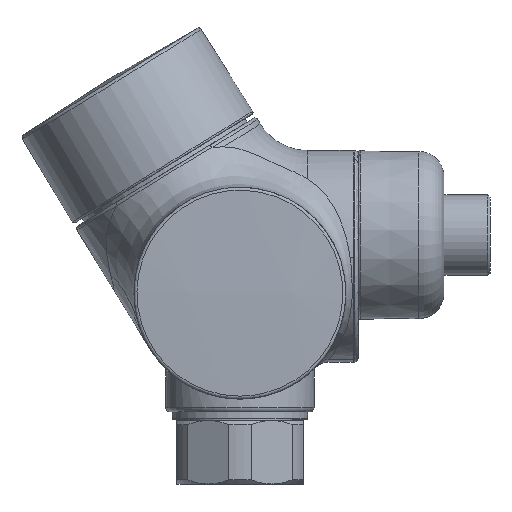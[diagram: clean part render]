
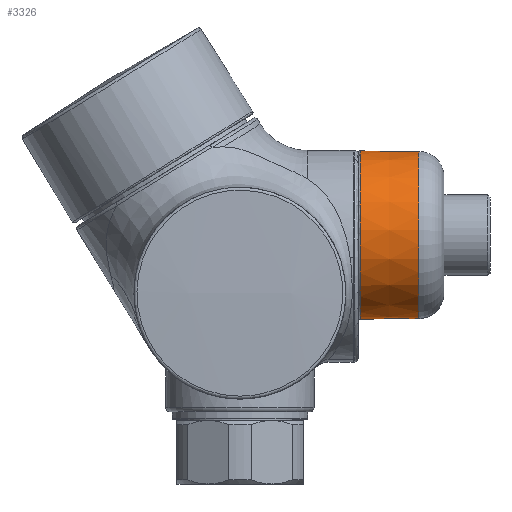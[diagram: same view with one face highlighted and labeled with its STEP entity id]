
A CAD part, left-side view. The second image highlights one B-rep face of the part: STEP entity #3326.
In plain terms, the highlighted conical face has half-angle 0.5 degrees and reference radius 19.909 mm.
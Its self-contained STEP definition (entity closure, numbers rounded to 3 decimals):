
#999 = CARTESIAN_POINT ( 'NONE',  ( 0., -27.633, 58.747 ) ) ;
#1636 = AXIS2_PLACEMENT_3D ( 'NONE', #5513, #15291, #6960 ) ;
#2849 = EDGE_LOOP ( 'NONE', ( #15820 ) ) ;
#2993 = EDGE_LOOP ( 'NONE', ( #15702 ) ) ;
#3255 = AXIS2_PLACEMENT_3D ( 'NONE', #3867, #13716, #5269 ) ;
#3326 = ADVANCED_FACE ( 'NONE', ( #14119, #14068 ), #13954, .T. ) ;
#3867 = CARTESIAN_POINT ( 'NONE',  ( 0., -28.333, 58.747 ) ) ;
#5269 = DIRECTION ( 'NONE',  ( -0.549, 0., -0.836 ) ) ;
#5513 = CARTESIAN_POINT ( 'NONE',  ( 0., -42.185, 58.747 ) ) ;
#5641 = VERTEX_POINT ( 'NONE', #13187 ) ;
#5814 = VERTEX_POINT ( 'NONE', #6081 ) ;
#6081 = CARTESIAN_POINT ( 'NONE',  ( -10.918, -28.333, 42.106 ) ) ;
#6960 = DIRECTION ( 'NONE',  ( 0.549, 0., 0.836 ) ) ;
#7042 = CIRCLE ( 'NONE', #1636, 19.782 ) ;
#7630 = CIRCLE ( 'NONE', #3255, 19.903 ) ;
#8022 = DIRECTION ( 'NONE',  ( 0., 1., 0. ) ) ;
#9978 = AXIS2_PLACEMENT_3D ( 'NONE', #999, #8022, #13633 ) ;
#13187 = CARTESIAN_POINT ( 'NONE',  ( 10.851, -42.185, 75.287 ) ) ;
#13633 = DIRECTION ( 'NONE',  ( 0.549, 0., 0.836 ) ) ;
#13716 = DIRECTION ( 'NONE',  ( 0., -1., 0. ) ) ;
#13954 = CONICAL_SURFACE ( 'NONE', #9978, 19.909, 0.009 ) ;
#14068 = FACE_BOUND ( 'NONE', #2993, .T. ) ;
#14119 = FACE_OUTER_BOUND ( 'NONE', #2849, .T. ) ;
#14507 = EDGE_CURVE ( 'NONE', #5814, #5814, #7630, .T. ) ;
#15291 = DIRECTION ( 'NONE',  ( 0., 1., 0. ) ) ;
#15702 = ORIENTED_EDGE ( 'NONE', *, *, #16137, .T. ) ;
#15820 = ORIENTED_EDGE ( 'NONE', *, *, #14507, .T. ) ;
#16137 = EDGE_CURVE ( 'NONE', #5641, #5641, #7042, .T. ) ;
